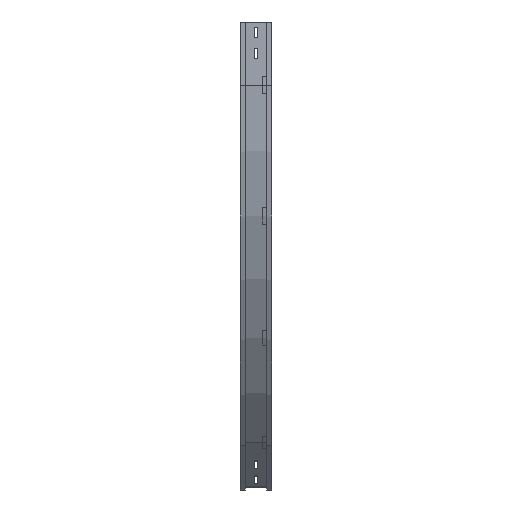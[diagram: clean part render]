
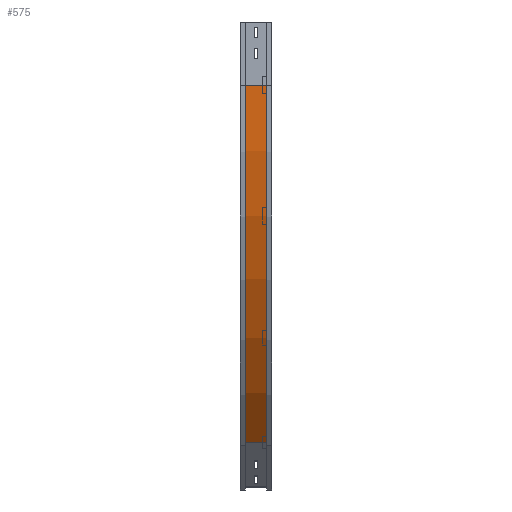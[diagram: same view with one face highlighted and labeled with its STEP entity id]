
A CAD part, left-side view. The second image highlights one B-rep face of the part: STEP entity #575.
In plain terms, the highlighted cylindrical face has radius 1200 mm (diameter 2400 mm), a partial arc.
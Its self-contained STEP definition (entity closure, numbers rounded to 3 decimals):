
#128 = DIRECTION ( 'NONE',  ( 0., -1., 0. ) ) ;
#167 = AXIS2_PLACEMENT_3D ( 'NONE', #2020, #2221, #1160 ) ;
#334 = CIRCLE ( 'NONE', #607, 1200. ) ;
#557 = EDGE_LOOP ( 'NONE', ( #2854, #2189, #1001, #2149 ) ) ;
#575 = ADVANCED_FACE ( 'NONE', ( #600 ), #1979, .T. ) ;
#588 = EDGE_CURVE ( 'NONE', #1902, #3115, #1719, .T. ) ;
#600 = FACE_OUTER_BOUND ( 'NONE', #557, .T. ) ;
#607 = AXIS2_PLACEMENT_3D ( 'NONE', #1556, #2266, #2053 ) ;
#1001 = ORIENTED_EDGE ( 'NONE', *, *, #1869, .T. ) ;
#1010 = VECTOR ( 'NONE', #2865, 1000. ) ;
#1030 = CARTESIAN_POINT ( 'NONE',  ( 9., 63., -150. ) ) ;
#1042 = VECTOR ( 'NONE', #1965, 1000. ) ;
#1054 = CARTESIAN_POINT ( 'NONE',  ( 360.472, 12., -998.528 ) ) ;
#1160 = DIRECTION ( 'NONE',  ( -1., 0., 0. ) ) ;
#1169 = DIRECTION ( 'NONE',  ( 0., 0., -1. ) ) ;
#1388 = EDGE_CURVE ( 'NONE', #3115, #2071, #3301, .T. ) ;
#1556 = CARTESIAN_POINT ( 'NONE',  ( 1209., 63., -150. ) ) ;
#1643 = CARTESIAN_POINT ( 'NONE',  ( 9., 12., -150. ) ) ;
#1701 = CARTESIAN_POINT ( 'NONE',  ( 9., 12., -150. ) ) ;
#1719 = LINE ( 'NONE', #1701, #1042 ) ;
#1836 = CARTESIAN_POINT ( 'NONE',  ( 360.472, 12., -998.528 ) ) ;
#1869 = EDGE_CURVE ( 'NONE', #1902, #3407, #334, .T. ) ;
#1902 = VERTEX_POINT ( 'NONE', #1030 ) ;
#1965 = DIRECTION ( 'NONE',  ( 0., -1., 0. ) ) ;
#1979 = CYLINDRICAL_SURFACE ( 'NONE', #2295, 1200. ) ;
#2020 = CARTESIAN_POINT ( 'NONE',  ( 1209., 12., -150. ) ) ;
#2053 = DIRECTION ( 'NONE',  ( -1., 0., 0. ) ) ;
#2071 = VERTEX_POINT ( 'NONE', #1054 ) ;
#2149 = ORIENTED_EDGE ( 'NONE', *, *, #2956, .T. ) ;
#2189 = ORIENTED_EDGE ( 'NONE', *, *, #588, .F. ) ;
#2221 = DIRECTION ( 'NONE',  ( 0., -1., 0. ) ) ;
#2266 = DIRECTION ( 'NONE',  ( 0., -1., 0. ) ) ;
#2295 = AXIS2_PLACEMENT_3D ( 'NONE', #2476, #128, #1169 ) ;
#2476 = CARTESIAN_POINT ( 'NONE',  ( 1209., 0., -150. ) ) ;
#2854 = ORIENTED_EDGE ( 'NONE', *, *, #1388, .F. ) ;
#2865 = DIRECTION ( 'NONE',  ( 0., -1., 0. ) ) ;
#2956 = EDGE_CURVE ( 'NONE', #3407, #2071, #3136, .T. ) ;
#3115 = VERTEX_POINT ( 'NONE', #1643 ) ;
#3136 = LINE ( 'NONE', #1836, #1010 ) ;
#3182 = CARTESIAN_POINT ( 'NONE',  ( 360.472, 63., -998.528 ) ) ;
#3301 = CIRCLE ( 'NONE', #167, 1200. ) ;
#3407 = VERTEX_POINT ( 'NONE', #3182 ) ;
